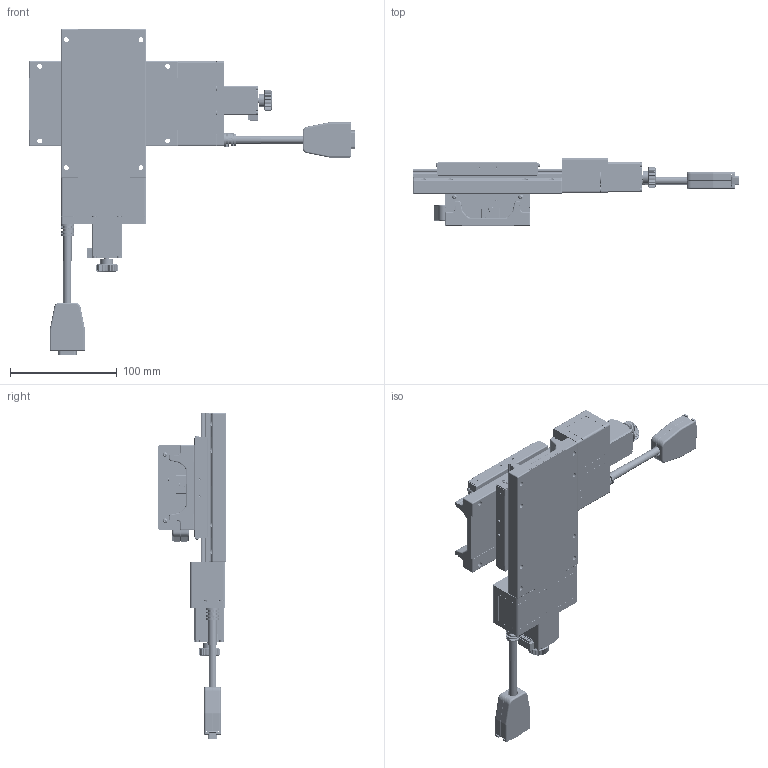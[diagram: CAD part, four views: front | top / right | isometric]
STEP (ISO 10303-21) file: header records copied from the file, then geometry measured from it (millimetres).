
FILE_DESCRIPTION (( 'STEP AP203' ), '1' );
FILE_NAME ('CYN8030-S2?N.STEP', '2023-10-02T01:09:23', ( '' ), ( '' ), 'SwSTEP 2.0', 'SolidWorks 2019', '' );
FILE_SCHEMA (( 'CONFIG_CONTROL_DESIGN' ));
Length unit declared in the file: millimetre
Products named in the file (7): Group1^CXN8030-S2?N(2023新版)_defeature-2_GMT; CXN80_GMT; CXN8030-S2?N(2023新版)_defeature-3; CYN8030-S2?N; Group1^CXN8030-S2?N(2023新版)_defeature-3_GMT; Group2^CXN8030-S2?N(2023新版)_defeature-2_GMT; Group2^CXN8030-S2?N(2023新版)_defeature-3_GMT
Assembly tree (7 placements, depth 3):
  CYN8030-S2?N
    Group1^CXN8030-S2?N(2023新版)_defeature-2_GMT
    Group2^CXN8030-S2?N(2023新版)_defeature-2_GMT
    CXN80_GMT
    CXN8030-S2?N(2023新版)_defeature-3
      Group1^CXN8030-S2?N(2023新版)_defeature-3_GMT
      Group2^CXN8030-S2?N(2023新版)_defeature-3_GMT
      CXN80_GMT
Bounding box: 305.7 x 63.5 x 305.7 mm (x, y, z)
Volume: 120208.3 mm3; surface area: 241102 mm2
Topology: 40 solids, 46 shells, 8546 faces, 21956 edges, 13516 vertices
Faces by surface type: plane 3208, cylinder 2596, cone 1106, torus 836, bspline 560, sphere 240
Entity records: 279999 total; most frequent: CARTESIAN_POINT 78492, ORIENTED_EDGE 42520, DIRECTION 42242, EDGE_CURVE 21260, AXIS2_PLACEMENT_3D 15925, VERTEX_POINT 13275, LINE 10392, VECTOR 10392
